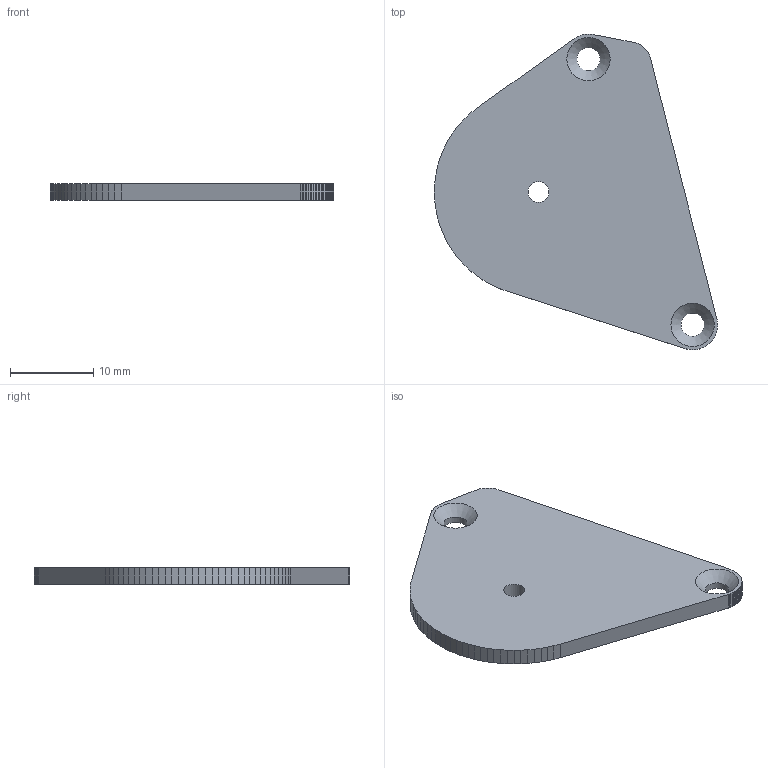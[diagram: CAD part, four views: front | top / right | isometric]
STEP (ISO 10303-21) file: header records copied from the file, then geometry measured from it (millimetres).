
FILE_DESCRIPTION(('Open CASCADE Model'),'2;1');
FILE_NAME('Open CASCADE Shape Model','2026-11-23T18:10:06',('Author'),( 'Open CASCADE'),'Open CASCADE STEP processor 8.0','build123d', 'Unknown');
FILE_SCHEMA(('AUTOMOTIVE_DESIGN { 1 0 10303 214 1 1 1 1 }'));
Length unit declared in the file: millimetre
Products named in the file (1): SOLID
Bounding box: 34 x 37.9 x 2 mm (x, y, z)
Volume: 1645.7 mm3; surface area: 1930.8 mm2
Topology: 1 solids, 1 shells, 107 faces, 313 edges, 208 vertices
Faces by surface type: plane 102, cylinder 3, cone 2
Full cylindrical faces by diameter (mm): 2.5 x1, 2.8 x2
Entity records: 7570 total; most frequent: CARTESIAN_POINT 1255, DIRECTION 1163, LINE 925, VECTOR 925, ORIENTED_EDGE 626, PCURVE 626, DEFINITIONAL_REPRESENTATION 626, EDGE_CURVE 313
